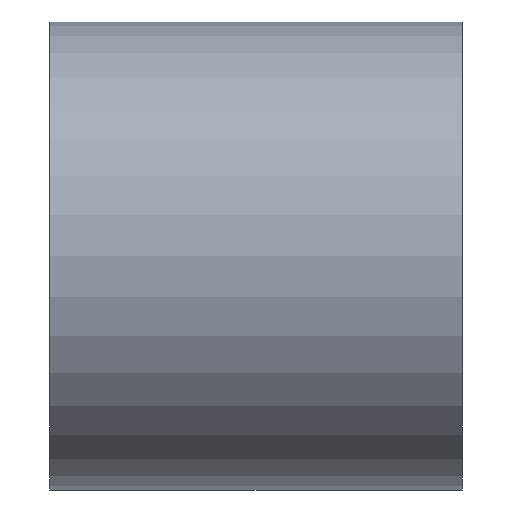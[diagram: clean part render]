
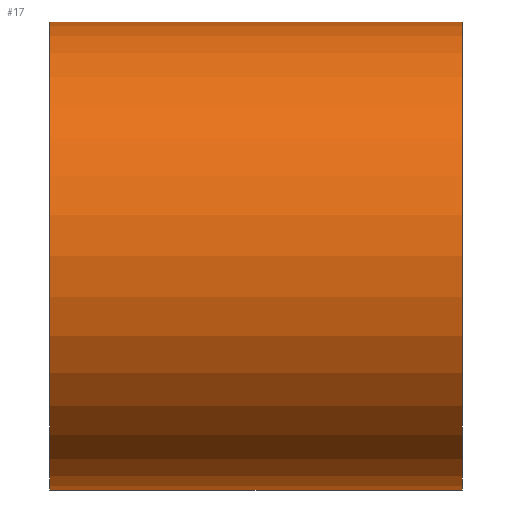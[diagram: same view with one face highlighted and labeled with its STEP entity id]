
A CAD part, left-side view. The second image highlights one B-rep face of the part: STEP entity #17.
In plain terms, the highlighted cylindrical face has radius 17.4 mm (diameter 34.8 mm), a full revolution.
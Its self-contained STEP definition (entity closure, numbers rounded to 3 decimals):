
#17 = ADVANCED_FACE('',(#18),#31,.T.);
#18 = FACE_BOUND('',#19,.T.);
#19 = EDGE_LOOP('',(#20,#54,#77,#104));
#20 = ORIENTED_EDGE('',*,*,#21,.F.);
#21 = EDGE_CURVE('',#22,#22,#24,.T.);
#22 = VERTEX_POINT('',#23);
#23 = CARTESIAN_POINT('',(87.,3.5,-77.863));
#24 = SURFACE_CURVE('',#25,(#30,#42),.PCURVE_S1.);
#25 = CIRCLE('',#26,17.4);
#26 = AXIS2_PLACEMENT_3D('',#27,#28,#29);
#27 = CARTESIAN_POINT('',(87.,3.5,-95.263));
#28 = DIRECTION('',(0.,1.,0.));
#29 = DIRECTION('',(0.,-0.,1.));
#30 = PCURVE('',#31,#36);
#31 = CYLINDRICAL_SURFACE('',#32,17.4);
#32 = AXIS2_PLACEMENT_3D('',#33,#34,#35);
#33 = CARTESIAN_POINT('',(87.,-27.2,-95.263));
#34 = DIRECTION('',(0.,1.,0.));
#35 = DIRECTION('',(0.,-0.,1.));
#36 = DEFINITIONAL_REPRESENTATION('',(#37),#41);
#37 = LINE('',#38,#39);
#38 = CARTESIAN_POINT('',(0.,30.7));
#39 = VECTOR('',#40,1.);
#40 = DIRECTION('',(1.,0.));
#41 = ( GEOMETRIC_REPRESENTATION_CONTEXT(2) 
PARAMETRIC_REPRESENTATION_CONTEXT() REPRESENTATION_CONTEXT('2D SPACE',''
  ) );
#42 = PCURVE('',#43,#48);
#43 = PLANE('',#44);
#44 = AXIS2_PLACEMENT_3D('',#45,#46,#47);
#45 = CARTESIAN_POINT('',(87.,3.5,-95.263));
#46 = DIRECTION('',(0.,1.,0.));
#47 = DIRECTION('',(0.,-0.,1.));
#48 = DEFINITIONAL_REPRESENTATION('',(#49),#53);
#49 = CIRCLE('',#50,17.4);
#50 = AXIS2_PLACEMENT_2D('',#51,#52);
#51 = CARTESIAN_POINT('',(0.,0.));
#52 = DIRECTION('',(1.,0.));
#53 = ( GEOMETRIC_REPRESENTATION_CONTEXT(2) 
PARAMETRIC_REPRESENTATION_CONTEXT() REPRESENTATION_CONTEXT('2D SPACE',''
  ) );
#54 = ORIENTED_EDGE('',*,*,#55,.F.);
#55 = EDGE_CURVE('',#56,#22,#58,.T.);
#56 = VERTEX_POINT('',#57);
#57 = CARTESIAN_POINT('',(87.,-27.2,-77.863));
#58 = SEAM_CURVE('',#59,(#63,#70),.PCURVE_S1.);
#59 = LINE('',#60,#61);
#60 = CARTESIAN_POINT('',(87.,-27.2,-77.863));
#61 = VECTOR('',#62,1.);
#62 = DIRECTION('',(0.,1.,0.));
#63 = PCURVE('',#31,#64);
#64 = DEFINITIONAL_REPRESENTATION('',(#65),#69);
#65 = LINE('',#66,#67);
#66 = CARTESIAN_POINT('',(6.283,-0.));
#67 = VECTOR('',#68,1.);
#68 = DIRECTION('',(0.,1.));
#69 = ( GEOMETRIC_REPRESENTATION_CONTEXT(2) 
PARAMETRIC_REPRESENTATION_CONTEXT() REPRESENTATION_CONTEXT('2D SPACE',''
  ) );
#70 = PCURVE('',#31,#71);
#71 = DEFINITIONAL_REPRESENTATION('',(#72),#76);
#72 = LINE('',#73,#74);
#73 = CARTESIAN_POINT('',(0.,-0.));
#74 = VECTOR('',#75,1.);
#75 = DIRECTION('',(0.,1.));
#76 = ( GEOMETRIC_REPRESENTATION_CONTEXT(2) 
PARAMETRIC_REPRESENTATION_CONTEXT() REPRESENTATION_CONTEXT('2D SPACE',''
  ) );
#77 = ORIENTED_EDGE('',*,*,#78,.T.);
#78 = EDGE_CURVE('',#56,#56,#79,.T.);
#79 = SURFACE_CURVE('',#80,(#85,#92),.PCURVE_S1.);
#80 = CIRCLE('',#81,17.4);
#81 = AXIS2_PLACEMENT_3D('',#82,#83,#84);
#82 = CARTESIAN_POINT('',(87.,-27.2,-95.263));
#83 = DIRECTION('',(0.,1.,0.));
#84 = DIRECTION('',(0.,-0.,1.));
#85 = PCURVE('',#31,#86);
#86 = DEFINITIONAL_REPRESENTATION('',(#87),#91);
#87 = LINE('',#88,#89);
#88 = CARTESIAN_POINT('',(0.,0.));
#89 = VECTOR('',#90,1.);
#90 = DIRECTION('',(1.,0.));
#91 = ( GEOMETRIC_REPRESENTATION_CONTEXT(2) 
PARAMETRIC_REPRESENTATION_CONTEXT() REPRESENTATION_CONTEXT('2D SPACE',''
  ) );
#92 = PCURVE('',#93,#98);
#93 = PLANE('',#94);
#94 = AXIS2_PLACEMENT_3D('',#95,#96,#97);
#95 = CARTESIAN_POINT('',(87.,-27.2,-95.263));
#96 = DIRECTION('',(0.,1.,0.));
#97 = DIRECTION('',(0.,-0.,1.));
#98 = DEFINITIONAL_REPRESENTATION('',(#99),#103);
#99 = CIRCLE('',#100,17.4);
#100 = AXIS2_PLACEMENT_2D('',#101,#102);
#101 = CARTESIAN_POINT('',(0.,0.));
#102 = DIRECTION('',(1.,0.));
#103 = ( GEOMETRIC_REPRESENTATION_CONTEXT(2) 
PARAMETRIC_REPRESENTATION_CONTEXT() REPRESENTATION_CONTEXT('2D SPACE',''
  ) );
#104 = ORIENTED_EDGE('',*,*,#55,.T.);
